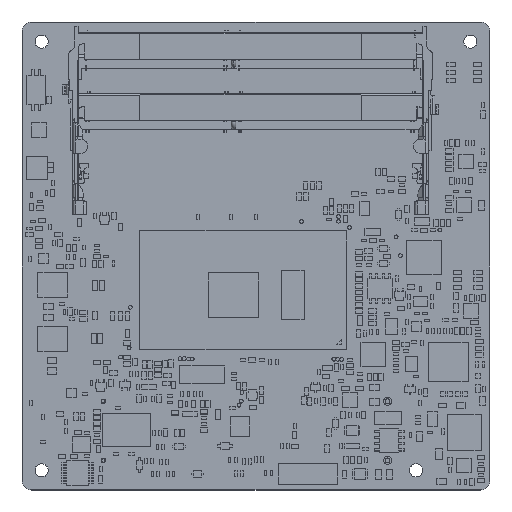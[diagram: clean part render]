
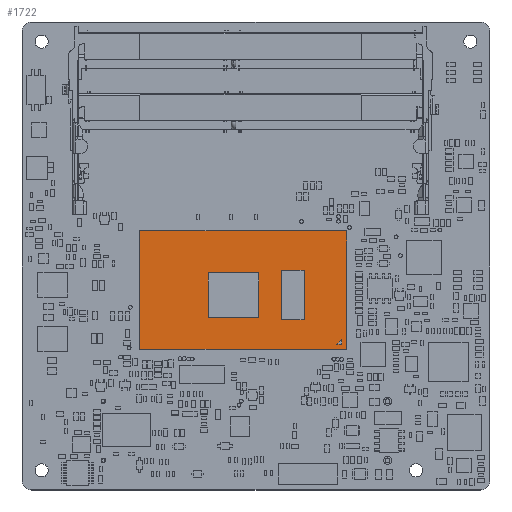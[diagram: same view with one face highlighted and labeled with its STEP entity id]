
A CAD part, top view. The second image highlights one B-rep face of the part: STEP entity #1722.
In plain terms, the highlighted planar face has unit normal (0, 0, 1) as drawn and (0, 1, 0) by its records, which use the part's own axes.
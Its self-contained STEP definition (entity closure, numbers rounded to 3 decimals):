
#1297=DIRECTION('',(-1.,0.,0.));
#1298=VECTOR('',#1297,42.);
#1299=CARTESIAN_POINT('',(21.,0.765,-12.));
#1300=LINE('',#1299,#1298);
#1305=DIRECTION('',(0.,0.,-1.));
#1306=VECTOR('',#1305,24.);
#1307=CARTESIAN_POINT('',(21.,0.765,12.));
#1308=LINE('',#1307,#1306);
#1313=DIRECTION('',(1.,0.,0.));
#1314=VECTOR('',#1313,42.);
#1315=CARTESIAN_POINT('',(-21.,0.765,12.));
#1316=LINE('',#1315,#1314);
#1321=DIRECTION('',(0.,0.,1.));
#1322=VECTOR('',#1321,24.);
#1323=CARTESIAN_POINT('',(-21.,0.765,-12.));
#1324=LINE('',#1323,#1322);
#1325=DIRECTION('',(-1.,0.,0.));
#1326=VECTOR('',#1325,10.267);
#1327=CARTESIAN_POINT('',(3.212,0.765,-3.476));
#1328=LINE('',#1327,#1326);
#1329=DIRECTION('',(0.,0.,1.));
#1330=VECTOR('',#1329,8.97);
#1331=CARTESIAN_POINT('',(-7.056,0.765,-3.476));
#1332=LINE('',#1331,#1330);
#1333=DIRECTION('',(1.,0.,0.));
#1334=VECTOR('',#1333,10.267);
#1335=CARTESIAN_POINT('',(-7.056,0.765,5.494));
#1336=LINE('',#1335,#1334);
#1337=DIRECTION('',(0.,0.,-1.));
#1338=VECTOR('',#1337,8.97);
#1339=CARTESIAN_POINT('',(3.212,0.765,5.494));
#1340=LINE('',#1339,#1338);
#1341=DIRECTION('',(-1.,0.,0.));
#1342=VECTOR('',#1341,4.649);
#1343=CARTESIAN_POINT('',(12.379,0.765,-4.062));
#1344=LINE('',#1343,#1342);
#1345=DIRECTION('',(0.,0.,1.));
#1346=VECTOR('',#1345,10.129);
#1347=CARTESIAN_POINT('',(7.73,0.765,-4.062));
#1348=LINE('',#1347,#1346);
#1349=DIRECTION('',(1.,0.,0.));
#1350=VECTOR('',#1349,4.649);
#1351=CARTESIAN_POINT('',(7.73,0.765,6.068));
#1352=LINE('',#1351,#1350);
#1353=DIRECTION('',(0.,0.,-1.));
#1354=VECTOR('',#1353,10.129);
#1355=CARTESIAN_POINT('',(12.379,0.765,6.068));
#1356=LINE('',#1355,#1354);
#1357=DIRECTION('',(1.,0.,0.));
#1358=VECTOR('',#1357,1.);
#1359=CARTESIAN_POINT('',(19.,0.765,11.));
#1360=LINE('',#1359,#1358);
#1361=DIRECTION('',(0.,0.,-1.));
#1362=VECTOR('',#1361,1.);
#1363=CARTESIAN_POINT('',(20.,0.765,11.));
#1364=LINE('',#1363,#1362);
#1365=DIRECTION('',(-0.707,0.,0.707));
#1366=VECTOR('',#1365,1.414);
#1367=CARTESIAN_POINT('',(20.,0.765,10.));
#1368=LINE('',#1367,#1366);
#1481=CARTESIAN_POINT('',(21.,0.765,-12.));
#1482=VERTEX_POINT('',#1481);
#1483=CARTESIAN_POINT('',(-21.,0.765,-12.));
#1484=VERTEX_POINT('',#1483);
#1485=CARTESIAN_POINT('',(21.,0.765,12.));
#1486=VERTEX_POINT('',#1485);
#1487=CARTESIAN_POINT('',(-21.,0.765,12.));
#1488=VERTEX_POINT('',#1487);
#1489=CARTESIAN_POINT('',(3.212,0.765,-3.476));
#1490=CARTESIAN_POINT('',(-7.056,0.765,-3.476));
#1491=VERTEX_POINT('',#1489);
#1492=VERTEX_POINT('',#1490);
#1493=CARTESIAN_POINT('',(-7.056,0.765,5.494));
#1494=VERTEX_POINT('',#1493);
#1495=CARTESIAN_POINT('',(3.212,0.765,5.494));
#1496=VERTEX_POINT('',#1495);
#1497=CARTESIAN_POINT('',(12.379,0.765,-4.062));
#1498=CARTESIAN_POINT('',(7.73,0.765,-4.062));
#1499=VERTEX_POINT('',#1497);
#1500=VERTEX_POINT('',#1498);
#1501=CARTESIAN_POINT('',(7.73,0.765,6.068));
#1502=VERTEX_POINT('',#1501);
#1503=CARTESIAN_POINT('',(12.379,0.765,6.068));
#1504=VERTEX_POINT('',#1503);
#1505=CARTESIAN_POINT('',(19.,0.765,11.));
#1506=CARTESIAN_POINT('',(20.,0.765,11.));
#1507=VERTEX_POINT('',#1505);
#1508=VERTEX_POINT('',#1506);
#1509=CARTESIAN_POINT('',(20.,0.765,10.));
#1510=VERTEX_POINT('',#1509);
#1683=CARTESIAN_POINT('',(0.,0.765,0.));
#1684=DIRECTION('',(0.,1.,0.));
#1685=DIRECTION('',(1.,0.,0.));
#1686=AXIS2_PLACEMENT_3D('',#1683,#1684,#1685);
#1687=PLANE('',#1686);
#1688=ORIENTED_EDGE('',*,*,#1635,.F.);
#1689=ORIENTED_EDGE('',*,*,#1650,.F.);
#1690=ORIENTED_EDGE('',*,*,#1664,.F.);
#1691=ORIENTED_EDGE('',*,*,#1677,.F.);
#1692=EDGE_LOOP('',(#1688,#1689,#1690,#1691));
#1693=FACE_OUTER_BOUND('',#1692,.F.);
#1695=ORIENTED_EDGE('',*,*,#1694,.T.);
#1697=ORIENTED_EDGE('',*,*,#1696,.T.);
#1699=ORIENTED_EDGE('',*,*,#1698,.T.);
#1701=ORIENTED_EDGE('',*,*,#1700,.T.);
#1702=EDGE_LOOP('',(#1695,#1697,#1699,#1701));
#1703=FACE_BOUND('',#1702,.F.);
#1705=ORIENTED_EDGE('',*,*,#1704,.T.);
#1707=ORIENTED_EDGE('',*,*,#1706,.T.);
#1709=ORIENTED_EDGE('',*,*,#1708,.T.);
#1711=ORIENTED_EDGE('',*,*,#1710,.T.);
#1712=EDGE_LOOP('',(#1705,#1707,#1709,#1711));
#1713=FACE_BOUND('',#1712,.F.);
#1715=ORIENTED_EDGE('',*,*,#1714,.T.);
#1717=ORIENTED_EDGE('',*,*,#1716,.T.);
#1719=ORIENTED_EDGE('',*,*,#1718,.T.);
#1720=EDGE_LOOP('',(#1715,#1717,#1719));
#1721=FACE_BOUND('',#1720,.F.);
#1722=ADVANCED_FACE('',(#1693,#1703,#1713,#1721),#1687,.T.);
#1635=EDGE_CURVE('',#1482,#1484,#1300,.T.);
#1650=EDGE_CURVE('',#1486,#1482,#1308,.T.);
#1664=EDGE_CURVE('',#1488,#1486,#1316,.T.);
#1677=EDGE_CURVE('',#1484,#1488,#1324,.T.);
#1694=EDGE_CURVE('',#1491,#1492,#1328,.T.);
#1696=EDGE_CURVE('',#1492,#1494,#1332,.T.);
#1698=EDGE_CURVE('',#1494,#1496,#1336,.T.);
#1700=EDGE_CURVE('',#1496,#1491,#1340,.T.);
#1704=EDGE_CURVE('',#1499,#1500,#1344,.T.);
#1706=EDGE_CURVE('',#1500,#1502,#1348,.T.);
#1708=EDGE_CURVE('',#1502,#1504,#1352,.T.);
#1710=EDGE_CURVE('',#1504,#1499,#1356,.T.);
#1714=EDGE_CURVE('',#1507,#1508,#1360,.T.);
#1716=EDGE_CURVE('',#1508,#1510,#1364,.T.);
#1718=EDGE_CURVE('',#1510,#1507,#1368,.T.);
